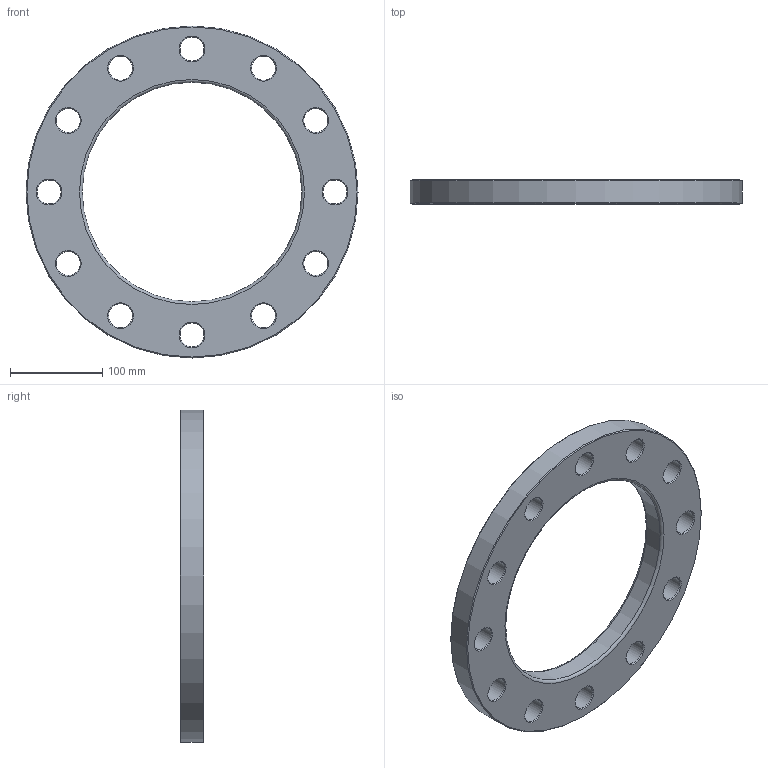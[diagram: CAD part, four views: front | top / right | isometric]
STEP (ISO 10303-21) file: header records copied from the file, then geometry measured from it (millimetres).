
FILE_DESCRIPTION(/* description */ ('Unknown'),/* implementation_level */ '2;1');
FILE_NAME(/* name */ 'FZ225H',/* time_stamp */ '2021-03-15T12:46:48+01:00',/* author */ ('Unknown'),/* organization */ ('Unknown'),/* preprocessor_version */ 'ST-DEVELOPER v16.7',/* originating_system */ 'Solid Edge',/* authorisation */ 'Unknown');
FILE_SCHEMA (('AUTOMOTIVE_DESIGN {1 0 10303 214 3 1 1}'));
Length unit declared in the file: millimetre
Products named in the file (1): FZ225H
Bounding box: 360 x 26 x 360 mm (x, y, z)
Volume: 1319098.6 mm3; surface area: 171824.6 mm2
Topology: 1 solids, 1 shells, 44 faces, 134 edges, 92 vertices
Faces by surface type: cone 26, cylinder 14, plane 2, torus 2
Full cylindrical faces by diameter (mm): 26 x12, 238 x1, 360 x1
Entity records: 1086 total; most frequent: DIRECTION 202, CARTESIAN_POINT 157, ORIENTED_EDGE 112, EDGE_LOOP 112, FACE_BOUND 112, AXIS2_PLACEMENT_3D 101, EDGE_CURVE 56, VERTEX_POINT 56
